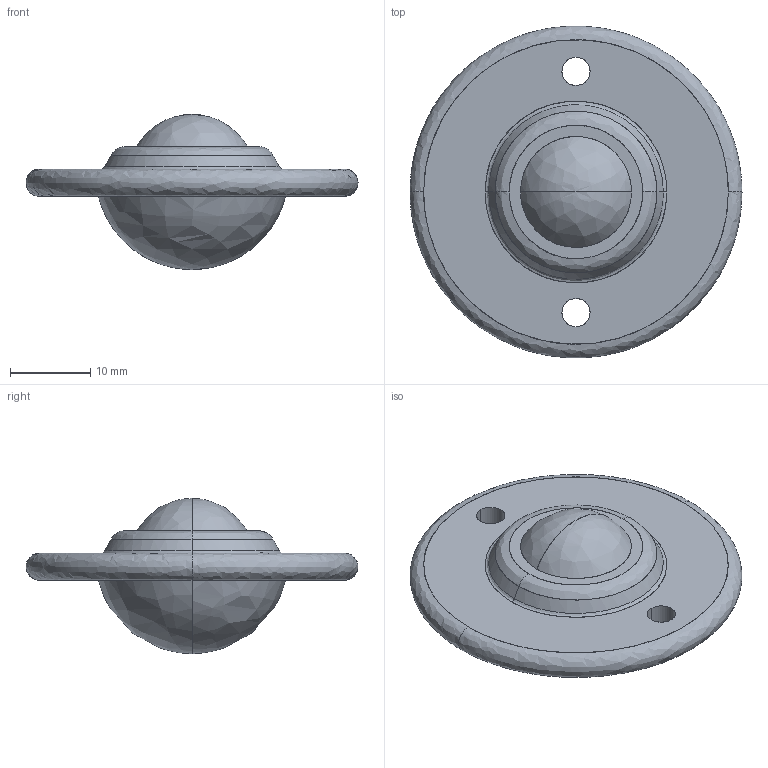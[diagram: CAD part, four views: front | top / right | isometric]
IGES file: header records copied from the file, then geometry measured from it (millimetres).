
Global section: file name: E:\UnigraphicsGraphicData\MISUMI_PRESS-PARTS\IGES\3d_goron_03810_r00.igs; native system: NX V5.0; preprocessor: UGS NX IGES V5.0; author: MISUMI; date: 20110105.160734; units: millimetre
Bounding box: 41.3 x 41.3 x 19.3 mm (x, y, z)
Surface area: 3362.7 mm2 (no closed solid volume)
Topology: 0 solids, 0 shells, 19 faces, 160 edges, 156 vertices
Faces by surface type: bspline 19
